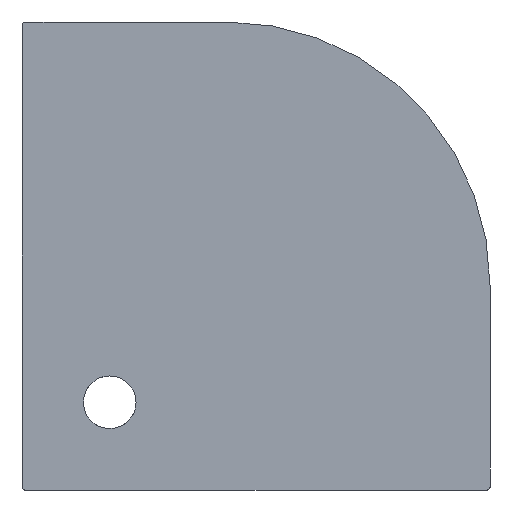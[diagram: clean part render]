
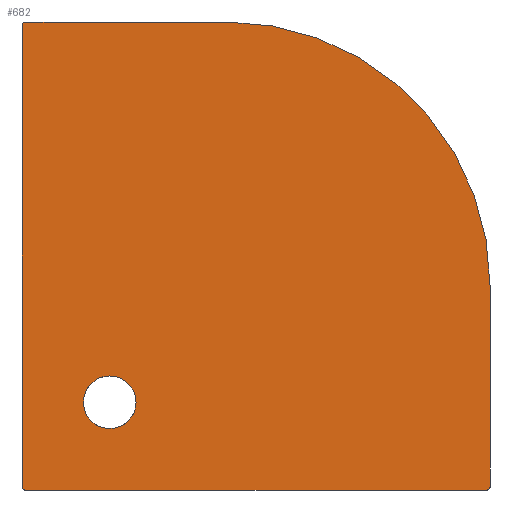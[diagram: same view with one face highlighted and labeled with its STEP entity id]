
A CAD part, front view. The second image highlights one B-rep face of the part: STEP entity #682.
In plain terms, the highlighted planar face has unit normal (0, -1, 0).
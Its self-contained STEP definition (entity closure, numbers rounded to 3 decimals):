
#27=FACE_BOUND('',#220,.T.);
#32=PLANE('',#759);
#60=LINE('',#1117,#106);
#62=LINE('',#1120,#108);
#63=LINE('',#1122,#109);
#64=LINE('',#1124,#110);
#106=VECTOR('',#894,10.);
#108=VECTOR('',#898,10.);
#109=VECTOR('',#901,10.);
#110=VECTOR('',#902,10.);
#172=FACE_OUTER_BOUND('',#219,.T.);
#219=EDGE_LOOP('',(#510,#511,#512,#513,#514,#515,#516,#517));
#220=EDGE_LOOP('',(#518));
#265=CIRCLE('',#745,5.);
#270=CIRCLE('',#754,5.);
#271=CIRCLE('',#756,5.);
#272=CIRCLE('',#760,450.);
#273=CIRCLE('',#761,45.);
#312=VERTEX_POINT('',#1083);
#313=VERTEX_POINT('',#1084);
#318=VERTEX_POINT('',#1104);
#319=VERTEX_POINT('',#1105);
#320=VERTEX_POINT('',#1110);
#321=VERTEX_POINT('',#1111);
#322=VERTEX_POINT('',#1116);
#323=VERTEX_POINT('',#1123);
#324=VERTEX_POINT('',#1126);
#373=EDGE_CURVE('',#312,#313,#265,.T.);
#384=EDGE_CURVE('',#318,#319,#270,.T.);
#387=EDGE_CURVE('',#320,#321,#271,.T.);
#390=EDGE_CURVE('',#322,#313,#60,.T.);
#392=EDGE_CURVE('',#312,#321,#62,.T.);
#393=EDGE_CURVE('',#320,#319,#63,.T.);
#394=EDGE_CURVE('',#318,#323,#64,.T.);
#395=EDGE_CURVE('',#323,#322,#272,.T.);
#396=EDGE_CURVE('',#324,#324,#273,.T.);
#510=ORIENTED_EDGE('',*,*,#373,.F.);
#511=ORIENTED_EDGE('',*,*,#392,.T.);
#512=ORIENTED_EDGE('',*,*,#387,.F.);
#513=ORIENTED_EDGE('',*,*,#393,.T.);
#514=ORIENTED_EDGE('',*,*,#384,.F.);
#515=ORIENTED_EDGE('',*,*,#394,.T.);
#516=ORIENTED_EDGE('',*,*,#395,.T.);
#517=ORIENTED_EDGE('',*,*,#390,.T.);
#518=ORIENTED_EDGE('',*,*,#396,.T.);
#682=ADVANCED_FACE('',(#172,#27),#32,.F.);
#745=AXIS2_PLACEMENT_3D('',#1085,#858,#859);
#754=AXIS2_PLACEMENT_3D('',#1106,#882,#883);
#756=AXIS2_PLACEMENT_3D('',#1112,#888,#889);
#759=AXIS2_PLACEMENT_3D('',#1121,#899,#900);
#760=AXIS2_PLACEMENT_3D('',#1125,#903,#904);
#761=AXIS2_PLACEMENT_3D('',#1127,#905,#906);
#858=DIRECTION('center_axis',(0.,1.,0.));
#859=DIRECTION('ref_axis',(-0.707,0.,0.707));
#882=DIRECTION('center_axis',(0.,1.,0.));
#883=DIRECTION('ref_axis',(0.707,0.,-0.707));
#888=DIRECTION('center_axis',(0.,1.,0.));
#889=DIRECTION('ref_axis',(-0.707,0.,-0.707));
#894=DIRECTION('',(-1.,0.,0.));
#898=DIRECTION('',(0.,0.,-1.));
#899=DIRECTION('center_axis',(0.,1.,0.));
#900=DIRECTION('ref_axis',(1.,0.,0.));
#901=DIRECTION('',(1.,0.,0.));
#902=DIRECTION('',(0.,0.,1.));
#903=DIRECTION('center_axis',(0.,-1.,0.));
#904=DIRECTION('ref_axis',(0.,0.,1.));
#905=DIRECTION('center_axis',(0.,1.,0.));
#906=DIRECTION('ref_axis',(-1.,0.,0.));
#1083=CARTESIAN_POINT('',(-400.,0.,395.));
#1084=CARTESIAN_POINT('',(-395.,0.,400.));
#1085=CARTESIAN_POINT('Origin',(-395.,0.,395.));
#1104=CARTESIAN_POINT('',(400.,0.,-395.));
#1105=CARTESIAN_POINT('',(395.,0.,-400.));
#1106=CARTESIAN_POINT('Origin',(395.,0.,-395.));
#1110=CARTESIAN_POINT('',(-395.,0.,-400.));
#1111=CARTESIAN_POINT('',(-400.,0.,-395.));
#1112=CARTESIAN_POINT('Origin',(-395.,0.,-395.));
#1116=CARTESIAN_POINT('',(-50.,0.,400.));
#1117=CARTESIAN_POINT('',(400.,0.,400.));
#1120=CARTESIAN_POINT('',(-400.,0.,400.));
#1121=CARTESIAN_POINT('Origin',(0.,0.,0.));
#1122=CARTESIAN_POINT('',(-400.,0.,-400.));
#1123=CARTESIAN_POINT('',(400.,0.,-50.));
#1124=CARTESIAN_POINT('',(400.,0.,-400.));
#1125=CARTESIAN_POINT('Origin',(-50.,0.,-50.));
#1126=CARTESIAN_POINT('',(-205.,0.,-250.));
#1127=CARTESIAN_POINT('Origin',(-250.,0.,-250.));
